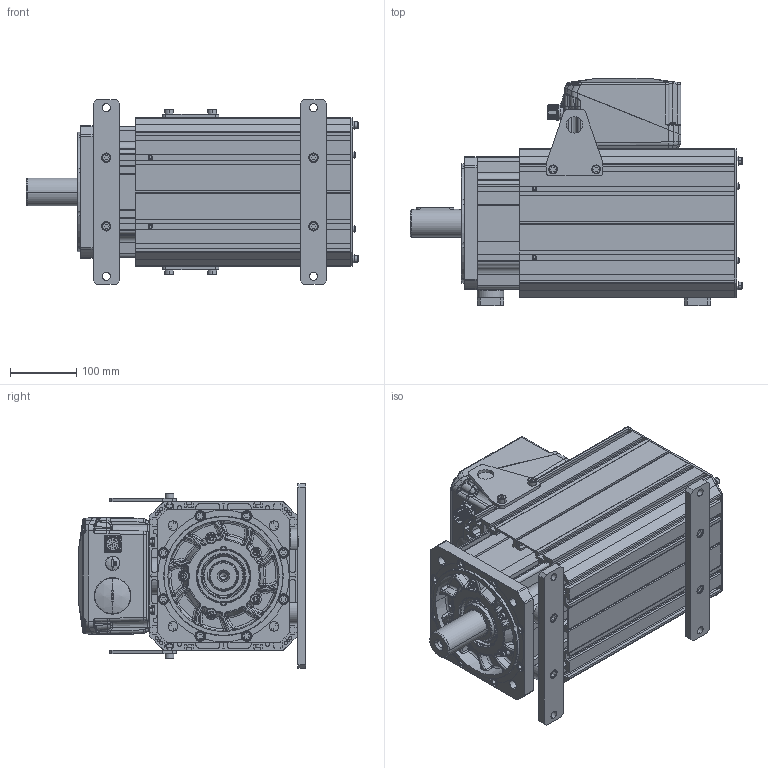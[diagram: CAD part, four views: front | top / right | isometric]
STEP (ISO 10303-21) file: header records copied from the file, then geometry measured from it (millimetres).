
FILE_DESCRIPTION((''),'2;1');
FILE_NAME('50233N-0_SW0001','2016-06-16T',('yanyerong'),(''),'PRO/ENGINEER BY PARAMETRIC TECHNOLOGY CORPORATION, 2010430','PRO/ENGINEER BY PARAMETRIC TECHNOLOGY CORPORATION, 2010430','');
FILE_SCHEMA(('CONFIG_CONTROL_DESIGN'));
Products named in the file (1): 50233N-0_SW0001
Bounding box: 500.1 x 342.8 x 278 mm (x, y, z)
Surface area: 2113093.4 mm2 (no closed solid volume)
Topology: 0 solids, 187 shells, 2867 faces, 8842 edges, 6128 vertices
Faces by surface type: plane 1253, cylinder 673, bspline 447, torus 212, cone 209, sphere 71, revolution 2
Entity records: 185796 total; most frequent: CARTESIAN_POINT 111749, ORIENTED_EDGE 14596, DIRECTION 14353, EDGE_CURVE 8836, VERTEX_POINT 6128, AXIS2_PLACEMENT_3D 4964, VECTOR 4423, LINE 4423
